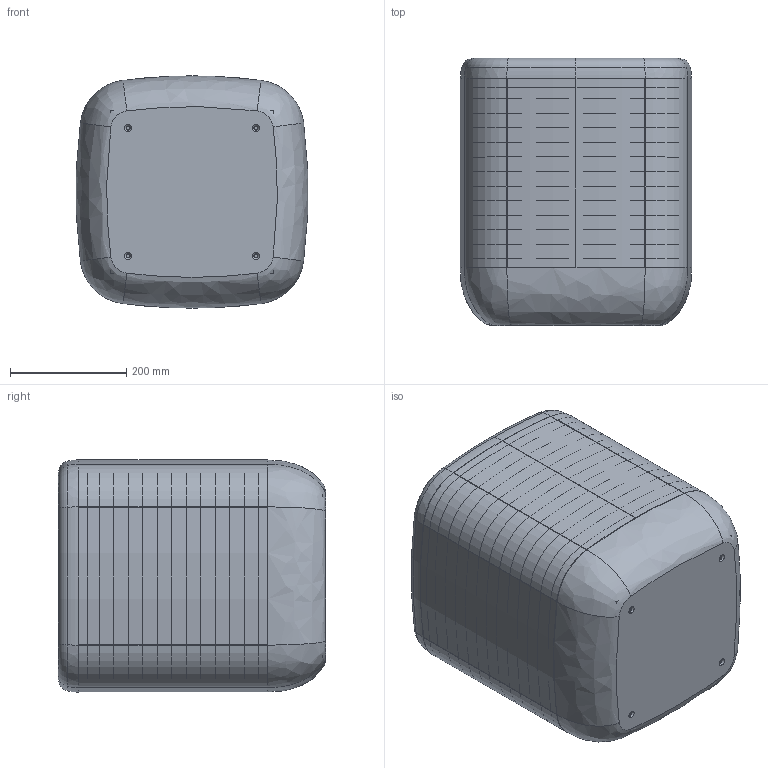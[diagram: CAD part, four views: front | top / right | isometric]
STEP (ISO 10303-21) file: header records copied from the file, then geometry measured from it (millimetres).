
FILE_DESCRIPTION (( 'STEP AP203' ), '1' );
FILE_NAME ('PCPD1678_05 - Cirrus Side Table.STEP', '2024-11-05T07:18:14', ( '' ), ( '' ), 'SwSTEP 2.0', 'SolidWorks 2024', '' );
FILE_SCHEMA (( 'CONFIG_CONTROL_DESIGN' ));
Length unit declared in the file: millimetre
Products named in the file (1): PCPD1678_05 - Cirrus Side Table
Bounding box: 398.29 x 460 x 400 mm (x, y, z)
Volume: 40604970.5 mm3; surface area: 6154204.2 mm2
Topology: 32 solids, 32 shells, 511 faces, 1247 edges, 798 vertices
Faces by surface type: cylinder 242, plane 179, bspline 52, torus 26, cone 8, sphere 4
Entity records: 21324 total; most frequent: CARTESIAN_POINT 9202, DIRECTION 2550, ORIENTED_EDGE 2494, EDGE_CURVE 1247, AXIS2_PLACEMENT_3D 1035, VERTEX_POINT 798, CIRCLE 575, EDGE_LOOP 573
